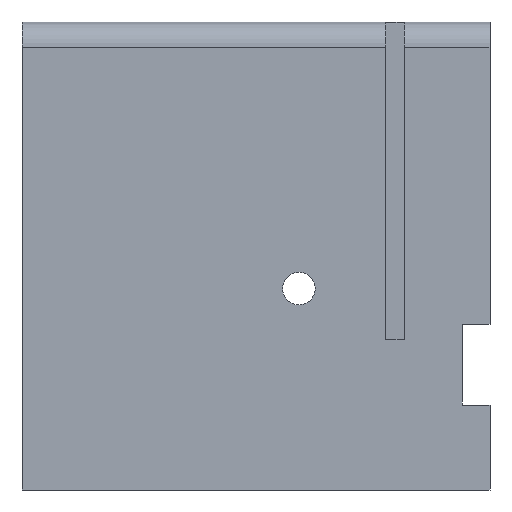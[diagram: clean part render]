
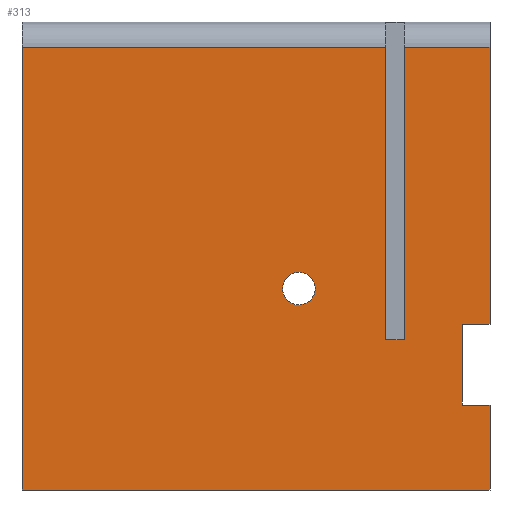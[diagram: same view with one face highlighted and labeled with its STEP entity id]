
A CAD part, left-side view. The second image highlights one B-rep face of the part: STEP entity #313.
In plain terms, the highlighted planar face has unit normal (-1, 0, 0).
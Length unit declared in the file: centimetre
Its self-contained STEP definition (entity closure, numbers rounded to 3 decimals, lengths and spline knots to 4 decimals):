
#3 = LINE ( 'NONE', #883, #450 ) ;
#17 = LINE ( 'NONE', #898, #410 ) ;
#22 = ORIENTED_EDGE ( 'NONE', *, *, #887, .T. ) ;
#24 = CARTESIAN_POINT ( 'NONE',  ( 0., 222.6682, 321.1072 ) ) ;
#30 = AXIS2_PLACEMENT_3D ( 'NONE', #115, #200, #287 ) ;
#32 = CARTESIAN_POINT ( 'NONE',  ( 0., 0., 181.5577 ) ) ;
#40 = LINE ( 'NONE', #208, #808 ) ;
#52 = ORIENTED_EDGE ( 'NONE', *, *, #675, .F. ) ;
#58 = CARTESIAN_POINT ( 'NONE',  ( 0., 1000., 0. ) ) ;
#64 = CARTESIAN_POINT ( 'NONE',  ( 0., 408.3882, 395.4474 ) ) ;
#65 = VECTOR ( 'NONE', #285, 100. ) ;
#70 = LINE ( 'NONE', #756, #868 ) ;
#80 = CARTESIAN_POINT ( 'NONE',  ( 0., 59.2118, 181.5577 ) ) ;
#81 = EDGE_CURVE ( 'NONE', #1033, #185, #40, .T. ) ;
#83 = CIRCLE ( 'NONE', #144, 34.7808 ) ;
#90 = DIRECTION ( 'NONE',  ( 0., 0., -1. ) ) ;
#114 = LINE ( 'NONE', #1079, #374 ) ;
#115 = CARTESIAN_POINT ( 'NONE',  ( 0., 408.3882, 430.2282 ) ) ;
#131 = ORIENTED_EDGE ( 'NONE', *, *, #508, .F. ) ;
#132 = CARTESIAN_POINT ( 'NONE',  ( 0., 222.6682, 946.1141 ) ) ;
#134 = ORIENTED_EDGE ( 'NONE', *, *, #947, .F. ) ;
#143 = EDGE_CURVE ( 'NONE', #774, #360, #330, .T. ) ;
#144 = AXIS2_PLACEMENT_3D ( 'NONE', #1035, #633, #714 ) ;
#147 = VERTEX_POINT ( 'NONE', #248 ) ;
#163 = CARTESIAN_POINT ( 'NONE',  ( 0., 59.2118, 181.5577 ) ) ;
#167 = DIRECTION ( 'NONE',  ( 0., 1., 0. ) ) ;
#185 = VERTEX_POINT ( 'NONE', #924 ) ;
#200 = DIRECTION ( 'NONE',  ( -1., 0., 0. ) ) ;
#208 = CARTESIAN_POINT ( 'NONE',  ( 0., 1000., 946.1141 ) ) ;
#209 = ORIENTED_EDGE ( 'NONE', *, *, #423, .F. ) ;
#210 = DIRECTION ( 'NONE',  ( 0., 0., 1. ) ) ;
#221 = EDGE_LOOP ( 'NONE', ( #134, #1019, #507, #443, #658, #273, #131, #209, #22, #1066, #569, #732 ) ) ;
#235 = EDGE_CURVE ( 'NONE', #875, #774, #944, .T. ) ;
#237 = VERTEX_POINT ( 'NONE', #860 ) ;
#245 = VECTOR ( 'NONE', #90, 100. ) ;
#248 = CARTESIAN_POINT ( 'NONE',  ( 0., 0., 946.1141 ) ) ;
#253 = DIRECTION ( 'NONE',  ( 1., 0., 0. ) ) ;
#273 = ORIENTED_EDGE ( 'NONE', *, *, #1076, .T. ) ;
#285 = DIRECTION ( 'NONE',  ( 0., 0., 1. ) ) ;
#287 = DIRECTION ( 'NONE',  ( 0., 0., 1. ) ) ;
#309 = VERTEX_POINT ( 'NONE', #785 ) ;
#313 = ADVANCED_FACE ( 'NONE', ( #712, #1029 ), #336, .F. ) ;
#315 = DIRECTION ( 'NONE',  ( 0., 1., 0. ) ) ;
#323 = EDGE_CURVE ( 'NONE', #147, #360, #600, .T. ) ;
#326 = VERTEX_POINT ( 'NONE', #790 ) ;
#330 = LINE ( 'NONE', #765, #1073 ) ;
#336 = PLANE ( 'NONE',  #1115 ) ;
#339 = CARTESIAN_POINT ( 'NONE',  ( 0., 59.2118, 354.6153 ) ) ;
#360 = VERTEX_POINT ( 'NONE', #1121 ) ;
#368 = LINE ( 'NONE', #438, #65 ) ;
#374 = VECTOR ( 'NONE', #561, 100. ) ;
#406 = DIRECTION ( 'NONE',  ( 0., -1., 0. ) ) ;
#410 = VECTOR ( 'NONE', #1043, 100. ) ;
#423 = EDGE_CURVE ( 'NONE', #983, #996, #17, .T. ) ;
#437 = EDGE_CURVE ( 'NONE', #326, #729, #83, .T. ) ;
#438 = CARTESIAN_POINT ( 'NONE',  ( 0., 183.4739, 321.1072 ) ) ;
#443 = ORIENTED_EDGE ( 'NONE', *, *, #143, .T. ) ;
#450 = VECTOR ( 'NONE', #167, 100. ) ;
#454 = EDGE_CURVE ( 'NONE', #185, #1116, #888, .T. ) ;
#486 = CARTESIAN_POINT ( 'NONE',  ( 0., 1000., 946.1141 ) ) ;
#507 = ORIENTED_EDGE ( 'NONE', *, *, #235, .T. ) ;
#508 = EDGE_CURVE ( 'NONE', #996, #237, #368, .T. ) ;
#511 = DIRECTION ( 'NONE',  ( 0., 0., 1. ) ) ;
#561 = DIRECTION ( 'NONE',  ( 0., 0., -1. ) ) ;
#569 = ORIENTED_EDGE ( 'NONE', *, *, #454, .T. ) ;
#587 = DIRECTION ( 'NONE',  ( 0., -1., 0. ) ) ;
#600 = LINE ( 'NONE', #1051, #245 ) ;
#633 = DIRECTION ( 'NONE',  ( -1., 0., 0. ) ) ;
#651 = VECTOR ( 'NONE', #511, 100. ) ;
#658 = ORIENTED_EDGE ( 'NONE', *, *, #323, .F. ) ;
#675 = EDGE_CURVE ( 'NONE', #729, #326, #991, .T. ) ;
#707 = VERTEX_POINT ( 'NONE', #32 ) ;
#712 = FACE_OUTER_BOUND ( 'NONE', #221, .T. ) ;
#714 = DIRECTION ( 'NONE',  ( 0., 0., 1. ) ) ;
#729 = VERTEX_POINT ( 'NONE', #64 ) ;
#732 = ORIENTED_EDGE ( 'NONE', *, *, #1059, .T. ) ;
#756 = CARTESIAN_POINT ( 'NONE',  ( 0., 1000., 0. ) ) ;
#765 = CARTESIAN_POINT ( 'NONE',  ( 0., 0., 354.6153 ) ) ;
#774 = VERTEX_POINT ( 'NONE', #339 ) ;
#785 = CARTESIAN_POINT ( 'NONE',  ( 0., 0., 0. ) ) ;
#790 = CARTESIAN_POINT ( 'NONE',  ( 0., 408.3882, 465.0089 ) ) ;
#793 = CARTESIAN_POINT ( 'NONE',  ( 0., 1000., 1000. ) ) ;
#797 = DIRECTION ( 'NONE',  ( 0., 0., -1. ) ) ;
#808 = VECTOR ( 'NONE', #910, 100. ) ;
#832 = VECTOR ( 'NONE', #315, 100. ) ;
#841 = EDGE_CURVE ( 'NONE', #707, #875, #3, .T. ) ;
#860 = CARTESIAN_POINT ( 'NONE',  ( 0., 183.4739, 946.1141 ) ) ;
#868 = VECTOR ( 'NONE', #587, 100. ) ;
#870 = CARTESIAN_POINT ( 'NONE',  ( 0., 1000., 1000. ) ) ;
#871 = EDGE_LOOP ( 'NONE', ( #995, #52 ) ) ;
#875 = VERTEX_POINT ( 'NONE', #80 ) ;
#883 = CARTESIAN_POINT ( 'NONE',  ( 0., 0., 181.5577 ) ) ;
#887 = EDGE_CURVE ( 'NONE', #983, #1033, #989, .T. ) ;
#888 = LINE ( 'NONE', #793, #923 ) ;
#898 = CARTESIAN_POINT ( 'NONE',  ( 0., 183.4739, 321.1072 ) ) ;
#910 = DIRECTION ( 'NONE',  ( 0., 1., 0. ) ) ;
#923 = VECTOR ( 'NONE', #973, 100. ) ;
#924 = CARTESIAN_POINT ( 'NONE',  ( 0., 1000., 946.1141 ) ) ;
#944 = LINE ( 'NONE', #163, #651 ) ;
#947 = EDGE_CURVE ( 'NONE', #707, #309, #114, .T. ) ;
#973 = DIRECTION ( 'NONE',  ( 0., 0., -1. ) ) ;
#983 = VERTEX_POINT ( 'NONE', #1061 ) ;
#989 = LINE ( 'NONE', #24, #1064 ) ;
#991 = CIRCLE ( 'NONE', #30, 34.7808 ) ;
#995 = ORIENTED_EDGE ( 'NONE', *, *, #437, .F. ) ;
#996 = VERTEX_POINT ( 'NONE', #1055 ) ;
#1016 = LINE ( 'NONE', #486, #832 ) ;
#1019 = ORIENTED_EDGE ( 'NONE', *, *, #841, .T. ) ;
#1029 = FACE_BOUND ( 'NONE', #871, .T. ) ;
#1033 = VERTEX_POINT ( 'NONE', #132 ) ;
#1035 = CARTESIAN_POINT ( 'NONE',  ( 0., 408.3882, 430.2282 ) ) ;
#1043 = DIRECTION ( 'NONE',  ( 0., -1., 0. ) ) ;
#1051 = CARTESIAN_POINT ( 'NONE',  ( 0., 0., 1000. ) ) ;
#1055 = CARTESIAN_POINT ( 'NONE',  ( 0., 183.4739, 321.1072 ) ) ;
#1059 = EDGE_CURVE ( 'NONE', #1116, #309, #70, .T. ) ;
#1061 = CARTESIAN_POINT ( 'NONE',  ( 0., 222.6682, 321.1072 ) ) ;
#1064 = VECTOR ( 'NONE', #210, 100. ) ;
#1066 = ORIENTED_EDGE ( 'NONE', *, *, #81, .T. ) ;
#1073 = VECTOR ( 'NONE', #406, 100. ) ;
#1076 = EDGE_CURVE ( 'NONE', #147, #237, #1016, .T. ) ;
#1079 = CARTESIAN_POINT ( 'NONE',  ( 0., 0., 1000. ) ) ;
#1115 = AXIS2_PLACEMENT_3D ( 'NONE', #870, #253, #797 ) ;
#1116 = VERTEX_POINT ( 'NONE', #58 ) ;
#1121 = CARTESIAN_POINT ( 'NONE',  ( 0., 0., 354.6153 ) ) ;
